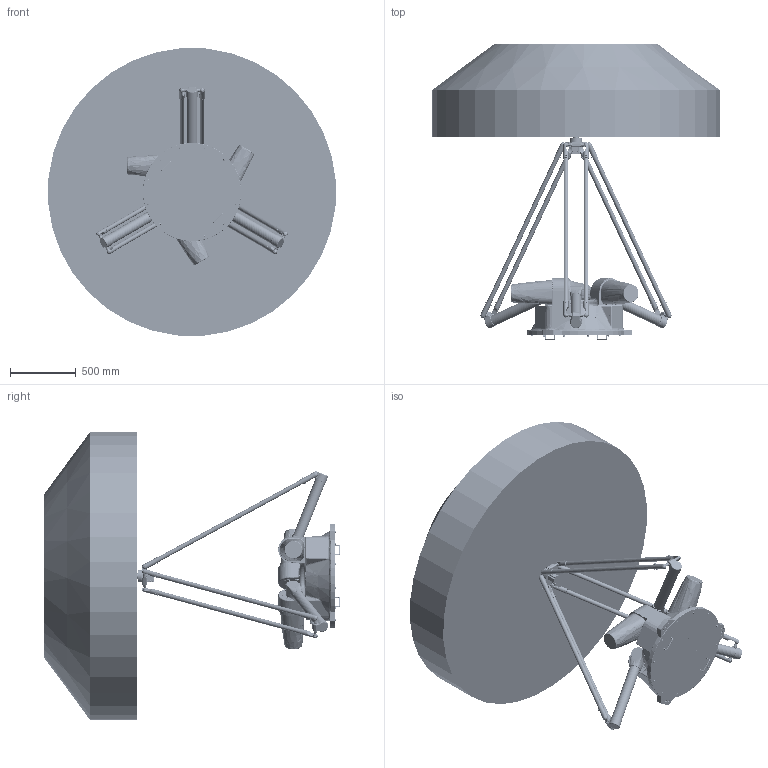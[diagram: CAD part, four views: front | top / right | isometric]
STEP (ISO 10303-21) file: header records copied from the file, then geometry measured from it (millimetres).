
FILE_DESCRIPTION (( 'STEP AP214' ), '1' );
FILE_NAME ('AP25X-2200-1544-T0-V3.0.0.STEP', '2024-12-18T02:59:53', ( '' ), ( '' ), 'SwSTEP 2.0', 'SolidWorks 2017', '' );
FILE_SCHEMA (( 'AUTOMOTIVE_DESIGN' ));
Length unit declared in the file: millimetre
Products named in the file (18): AP15X-2200-1544-T1-V1.0.1; AP25X-2200-1544-T2-V1.0.0; AP25X-1130-1544-T10-V1.0.0; AP25X-2200-1544-T3-V2.0.0; AP25X-2200-1544-T10-V1.0.0; AP25X-2200-1544-T0-V3.0.0
Assembly tree (12 placements, depth 2):
  AP15X-2200-1544-T1-V1.0.1
  AP25X-2200-1544-T2-V1.0.0
  AP25X-2200-1544-T2-V1.0.0
  AP25X-2200-1544-T3-V2.0.0
  AP25X-2200-1544-T2-V1.0.0
Bounding box: 2193.94 x 2257 x 2193.94 mm (x, y, z)
Volume: 2221329838 mm3; surface area: 16985968.9 mm2
Topology: 93 solids, 278 shells, 7142 faces, 19009 edges, 12230 vertices
Faces by surface type: plane 2243, bspline 2205, cylinder 1631, cone 745, torus 237, sphere 81
Full cylindrical faces by diameter (mm): 0.9 x7, 1.5 x4, 1.6 x1, 2 x7, 2.05 x9, 2.1 x2, 2.3 x4, 2.5 x40, 3 x15, 3.3 x26, 3.4 x7, 3.5 x52, 4.2 x37, 4.268 x1, 4.383 x1, 4.5 x4, 4.8 x1, 5 x90, 5.3 x1, 5.5 x20, 6 x6, 6.647 x36, 6.72 x3, 6.8 x12, 7 x9, 7.3 x2, 8 x66, 9 x6, 9.3 x2, 9.51 x2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
Entity records: 397586 total; most frequent: CARTESIAN_POINT 201365, ORIENTED_EDGE 28263, DIRECTION 21054, EDGE_CURVE 14635, VERTEX_POINT 10131, AXIS2_PLACEMENT_3D 7917, EDGE_LOOP 7799, FACE_OUTER_BOUND 6729
